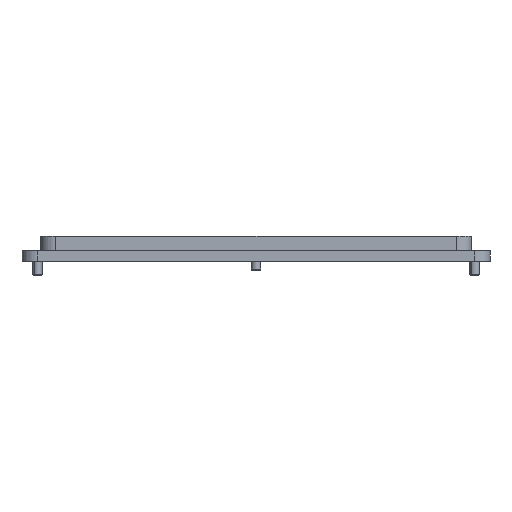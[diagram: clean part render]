
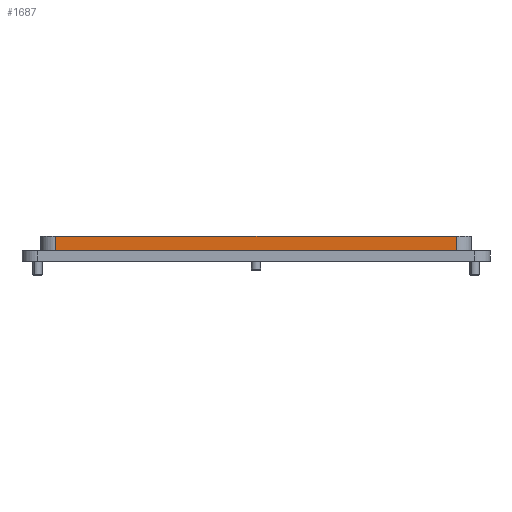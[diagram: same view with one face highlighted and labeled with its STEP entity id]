
A CAD part, left-side view. The second image highlights one B-rep face of the part: STEP entity #1687.
In plain terms, the highlighted planar face has unit normal (-1, 0, 0).
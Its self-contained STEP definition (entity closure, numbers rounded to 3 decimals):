
#847 = DIRECTION ( 'NONE',  ( 0., 0., 1. ) ) ;
#848 = CARTESIAN_POINT ( 'NONE',  ( -70., -65., -214.96 ) ) ;
#852 = DIRECTION ( 'NONE',  ( 0., 0., -1. ) ) ;
#857 = LINE ( 'NONE', #848, #1249 ) ;
#859 = LINE ( 'NONE', #862, #5500 ) ;
#862 = CARTESIAN_POINT ( 'NONE',  ( -70., 65., -214.96 ) ) ;
#1249 = VECTOR ( 'NONE', #847, 1000. ) ;
#1501 = EDGE_CURVE ( 'NONE', #6562, #6551, #859, .T. ) ;
#1503 = EDGE_CURVE ( 'NONE', #6548, #6561, #857, .T. ) ;
#1687 = ADVANCED_FACE ( 'NONE', ( #2581 ), #2582, .T. ) ;
#2578 = CARTESIAN_POINT ( 'NONE',  ( -70., 70., -214.96 ) ) ;
#2581 = FACE_OUTER_BOUND ( 'NONE', #3278, .T. ) ;
#2582 = PLANE ( 'NONE',  #6654 ) ;
#2585 = DIRECTION ( 'NONE',  ( -1., 0., 0. ) ) ;
#2586 = DIRECTION ( 'NONE',  ( 0., -1., 0. ) ) ;
#3278 = EDGE_LOOP ( 'NONE', ( #6203, #6222, #6212, #6245 ) ) ;
#4196 = LINE ( 'NONE', #4197, #5912 ) ;
#4197 = CARTESIAN_POINT ( 'NONE',  ( -70., 70., 3.5 ) ) ;
#4198 = DIRECTION ( 'NONE',  ( 0., -1., 0. ) ) ;
#4429 = LINE ( 'NONE', #4436, #6018 ) ;
#4436 = CARTESIAN_POINT ( 'NONE',  ( -70., 70., 8.1 ) ) ;
#4444 = DIRECTION ( 'NONE',  ( 0., -1., 0. ) ) ;
#5432 = CARTESIAN_POINT ( 'NONE',  ( -70., -65., 3.5 ) ) ;
#5435 = CARTESIAN_POINT ( 'NONE',  ( -70., 65., 3.5 ) ) ;
#5445 = CARTESIAN_POINT ( 'NONE',  ( -70., -65., 8.1 ) ) ;
#5446 = CARTESIAN_POINT ( 'NONE',  ( -70., 65., 8.1 ) ) ;
#5500 = VECTOR ( 'NONE', #852, 1000. ) ;
#5551 = EDGE_CURVE ( 'NONE', #6551, #6548, #4196, .T. ) ;
#5623 = EDGE_CURVE ( 'NONE', #6562, #6561, #4429, .T. ) ;
#5912 = VECTOR ( 'NONE', #4198, 1000. ) ;
#6018 = VECTOR ( 'NONE', #4444, 1000. ) ;
#6203 = ORIENTED_EDGE ( 'NONE', *, *, #5551, .T. ) ;
#6212 = ORIENTED_EDGE ( 'NONE', *, *, #5623, .F. ) ;
#6222 = ORIENTED_EDGE ( 'NONE', *, *, #1503, .T. ) ;
#6245 = ORIENTED_EDGE ( 'NONE', *, *, #1501, .T. ) ;
#6548 = VERTEX_POINT ( 'NONE', #5432 ) ;
#6551 = VERTEX_POINT ( 'NONE', #5435 ) ;
#6561 = VERTEX_POINT ( 'NONE', #5445 ) ;
#6562 = VERTEX_POINT ( 'NONE', #5446 ) ;
#6654 = AXIS2_PLACEMENT_3D ( 'NONE', #2578, #2585, #2586 ) ;
